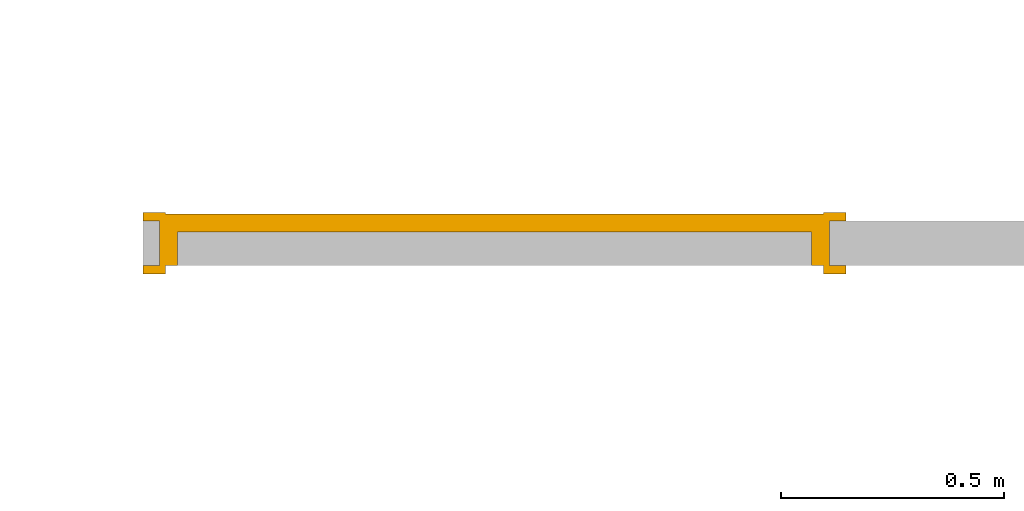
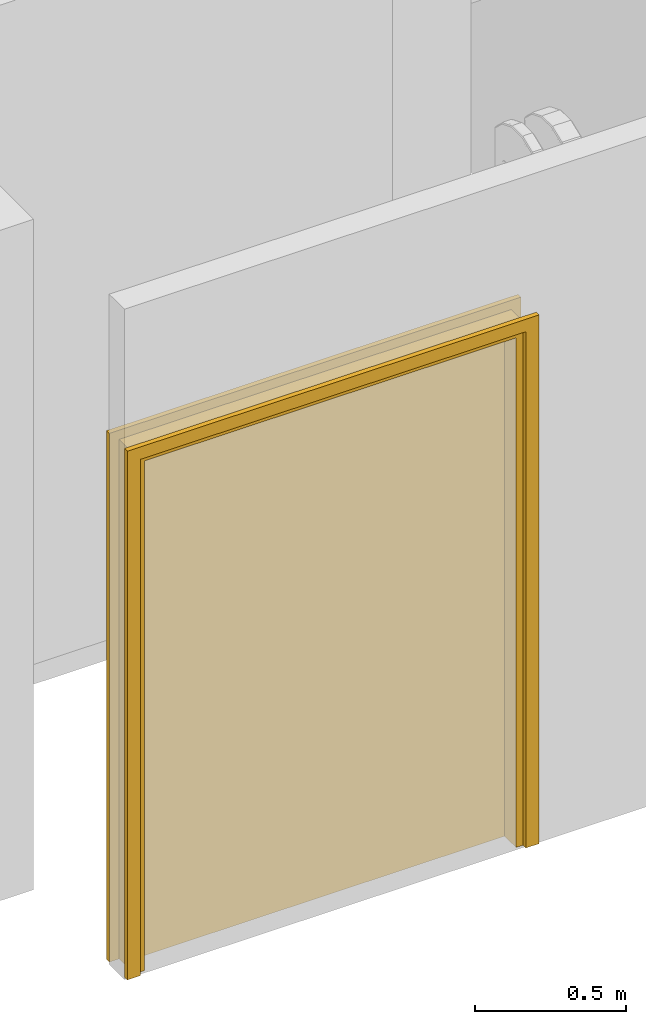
# One storey, part 5 of 22: 1 door.
"""IFC2X3 building model written with IfcOpenShell, lengths in millimetres."""

from ifc_helpers import new_model, entity, si_unit, converted_unit, derived_unit, direction, frame, origin, place, context, subcontext, project, spatial, face_set, surface_model, source, transform, mapped, material, type_object, type_shapes, element, save


model = new_model("IFC2X3")

# Units and contexts
model_context = context("Model", 3, precision=0.01, world=origin(), true_north=direction((6.12303176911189e-17, 1.0)))
body_context = subcontext(model_context, "Body", "Model", "MODEL_VIEW")
ifc_project = project(units=[si_unit("LENGTHUNIT", "METRE", prefix="MILLI"), si_unit("AREAUNIT", "SQUARE_METRE"), si_unit("VOLUMEUNIT", "CUBIC_METRE"), converted_unit("PLANEANGLEUNIT", "DEGREE", entity("IfcRatioMeasure", 0.0174532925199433), si_unit("PLANEANGLEUNIT", "RADIAN"), dimensions=[0, 0, 0, 0, 0, 0, 0]), si_unit("MASSUNIT", "GRAM", prefix="KILO"), derived_unit("MASSDENSITYUNIT", [(si_unit("MASSUNIT", "GRAM", prefix="KILO"), 1), (si_unit("LENGTHUNIT", "METRE"), -3)]), si_unit("TIMEUNIT", "SECOND"), si_unit("FREQUENCYUNIT", "HERTZ"), si_unit("THERMODYNAMICTEMPERATUREUNIT", "DEGREE_CELSIUS"), derived_unit("THERMALTRANSMITTANCEUNIT", [(si_unit("MASSUNIT", "GRAM", prefix="KILO"), 1), (si_unit("THERMODYNAMICTEMPERATUREUNIT", "KELVIN"), -1), (si_unit("TIMEUNIT", "SECOND"), -3)]), derived_unit("VOLUMETRICFLOWRATEUNIT", [(si_unit("LENGTHUNIT", "METRE"), 3), (si_unit("TIMEUNIT", "SECOND"), -1)]), si_unit("ELECTRICCURRENTUNIT", "AMPERE"), si_unit("ELECTRICVOLTAGEUNIT", "VOLT"), si_unit("POWERUNIT", "WATT"), si_unit("FORCEUNIT", "NEWTON", prefix="KILO"), si_unit("ILLUMINANCEUNIT", "LUX"), si_unit("LUMINOUSFLUXUNIT", "LUMEN"), si_unit("LUMINOUSINTENSITYUNIT", "CANDELA"), derived_unit("USERDEFINED", [(si_unit("MASSUNIT", "GRAM", prefix="KILO"), -1), (si_unit("LENGTHUNIT", "METRE"), -2), (si_unit("TIMEUNIT", "SECOND"), 3), (si_unit("LUMINOUSFLUXUNIT", "LUMEN"), 1)]), derived_unit("LINEARVELOCITYUNIT", [(si_unit("LENGTHUNIT", "METRE"), 1), (si_unit("TIMEUNIT", "SECOND"), -1)]), si_unit("PRESSUREUNIT", "PASCAL"), derived_unit("USERDEFINED", [(si_unit("LENGTHUNIT", "METRE"), -2), (si_unit("MASSUNIT", "GRAM", prefix="KILO"), 1), (si_unit("TIMEUNIT", "SECOND"), -2)])], contexts=[model_context])

# Site, building, storey
site_placement = place(None, origin())
site = spatial("IfcSite", under=ifc_project, at=site_placement, Name="Default", CompositionType="ELEMENT")
building_placement = place(site_placement, origin())
building = spatial("IfcBuilding", under=site, at=building_placement, CompositionType="ELEMENT")
storey_placement = place(building_placement, frame((0.0, 0.0, -3000.0)))
storey = spatial("IfcBuildingStorey", under=building, at=storey_placement, Name="-2. Story", CompositionType="ELEMENT", Elevation=-3000.0)

# Door
ifc_material = material(Name="Metal - Stainless Steel")
door_style = type_object("IfcDoorStyle", Name="DOO - 003", ConstructionType="NOTDEFINED", OperationType="NOTDEFINED", ParameterTakesPrecedence=False, Sizeable=False, material=ifc_material)
shared_shape = source(origin(), body_context, "Body", "SurfaceModel", [
    surface_model("IfcFaceBasedSurfaceModel", [(47009.45748506, 74622.1569014, -2900.0), (47059.45748506, 74622.1569014, -2900.0), (47059.45748506, 74603.1569014, -2900.0), (47009.45748506, 74603.1569014, -2900.0), (47009.45748506, 74622.1569014, -2900.0), (47009.45748506, 74622.1569014, -763.0), (47059.45748506, 74622.1569014, -813.0), (47059.45748506, 74622.1569014, -2900.0), (47059.45748506, 74622.1569014, -2900.0), (47059.45748506, 74622.1569014, -813.0), (47059.45748506, 74603.1569014, -813.0), (47059.45748506, 74603.1569014, -2900.0), (47009.45748506, 74603.1569014, -2900.0), (47059.45748506, 74603.1569014, -2900.0), (47059.45748506, 74603.1569014, -813.0), (47009.45748506, 74603.1569014, -763.0), (47009.45748506, 74622.1569014, -763.0), (47009.45748506, 74622.1569014, -2900.0), (47009.45748506, 74603.1569014, -2900.0), (47009.45748506, 74603.1569014, -763.0), (47059.45748506, 74622.1569014, -813.0), (47009.45748506, 74622.1569014, -763.0), (47009.45748506, 74603.1569014, -763.0), (47059.45748506, 74603.1569014, -813.0), (48583.45748506, 74622.1569014, -763.0), (48533.45748506, 74622.1569014, -813.0), (48533.45748506, 74603.1569014, -813.0), (48583.45748506, 74603.1569014, -763.0), (48583.45748506, 74622.1569014, -763.0), (48583.45748506, 74622.1569014, -2900.0), (48533.45748506, 74622.1569014, -2900.0), (48533.45748506, 74622.1569014, -813.0), (48533.45748506, 74622.1569014, -813.0), (48533.45748506, 74622.1569014, -2900.0), (48533.45748506, 74603.1569014, -2900.0), (48533.45748506, 74603.1569014, -813.0), (48583.45748506, 74603.1569014, -763.0), (48533.45748506, 74603.1569014, -813.0), (48533.45748506, 74603.1569014, -2900.0), (48583.45748506, 74603.1569014, -2900.0), (48583.45748506, 74622.1569014, -2900.0), (48583.45748506, 74622.1569014, -763.0), (48583.45748506, 74603.1569014, -763.0), (48583.45748506, 74603.1569014, -2900.0), (48533.45748506, 74622.1569014, -2900.0), (48583.45748506, 74622.1569014, -2900.0), (48583.45748506, 74603.1569014, -2900.0), (48533.45748506, 74603.1569014, -2900.0), (47009.45748506, 74622.1569014, -763.0), (47059.45748506, 74622.1569014, -813.0), (47059.45748506, 74603.1569014, -813.0), (47009.45748506, 74603.1569014, -763.0), (47009.45748506, 74622.1569014, -763.0), (48583.45748506, 74622.1569014, -763.0), (48533.45748506, 74622.1569014, -813.0), (47059.45748506, 74622.1569014, -813.0), (47059.45748506, 74622.1569014, -813.0), (48533.45748506, 74622.1569014, -813.0), (48533.45748506, 74603.1569014, -813.0), (47059.45748506, 74603.1569014, -813.0), (47009.45748506, 74603.1569014, -763.0), (47059.45748506, 74603.1569014, -813.0), (48533.45748506, 74603.1569014, -813.0), (48583.45748506, 74603.1569014, -763.0), (48583.45748506, 74622.1569014, -763.0), (47009.45748506, 74622.1569014, -763.0), (47009.45748506, 74603.1569014, -763.0), (48583.45748506, 74603.1569014, -763.0), (48533.45748506, 74622.1569014, -813.0), (48583.45748506, 74622.1569014, -763.0), (48583.45748506, 74603.1569014, -763.0), (48533.45748506, 74603.1569014, -813.0), (47009.45748506, 74484.1569014, -2900.0), (47009.45748506, 74503.1569014, -2900.0), (47059.45748506, 74503.1569014, -2900.0), (47059.45748506, 74484.1569014, -2900.0), (47009.45748506, 74484.1569014, -763.0), (47009.45748506, 74503.1569014, -763.0), (47009.45748506, 74503.1569014, -2900.0), (47009.45748506, 74484.1569014, -2900.0), (47009.45748506, 74503.1569014, -2900.0), (47009.45748506, 74503.1569014, -763.0), (47059.45748506, 74503.1569014, -813.0), (47059.45748506, 74503.1569014, -2900.0), (47059.45748506, 74484.1569014, -2900.0), (47059.45748506, 74503.1569014, -2900.0), (47059.45748506, 74503.1569014, -813.0), (47059.45748506, 74484.1569014, -813.0), (47009.45748506, 74484.1569014, -2900.0), (47059.45748506, 74484.1569014, -2900.0), (47059.45748506, 74484.1569014, -813.0), (47009.45748506, 74484.1569014, -763.0), (47059.45748506, 74484.1569014, -813.0), (47059.45748506, 74503.1569014, -813.0), (47009.45748506, 74503.1569014, -763.0), (47009.45748506, 74484.1569014, -763.0), (48583.45748506, 74484.1569014, -763.0), (48583.45748506, 74503.1569014, -763.0), (48533.45748506, 74503.1569014, -813.0), (48533.45748506, 74484.1569014, -813.0), (48583.45748506, 74484.1569014, -2900.0), (48583.45748506, 74503.1569014, -2900.0), (48583.45748506, 74503.1569014, -763.0), (48583.45748506, 74484.1569014, -763.0), (48583.45748506, 74503.1569014, -763.0), (48583.45748506, 74503.1569014, -2900.0), (48533.45748506, 74503.1569014, -2900.0), (48533.45748506, 74503.1569014, -813.0), (48533.45748506, 74484.1569014, -813.0), (48533.45748506, 74503.1569014, -813.0), (48533.45748506, 74503.1569014, -2900.0), (48533.45748506, 74484.1569014, -2900.0), (48583.45748506, 74484.1569014, -763.0), (48533.45748506, 74484.1569014, -813.0), (48533.45748506, 74484.1569014, -2900.0), (48583.45748506, 74484.1569014, -2900.0), (48533.45748506, 74484.1569014, -2900.0), (48533.45748506, 74503.1569014, -2900.0), (48583.45748506, 74503.1569014, -2900.0), (48583.45748506, 74484.1569014, -2900.0), (47009.45748506, 74484.1569014, -763.0), (47009.45748506, 74503.1569014, -763.0), (47059.45748506, 74503.1569014, -813.0), (47059.45748506, 74484.1569014, -813.0), (48583.45748506, 74484.1569014, -763.0), (48583.45748506, 74503.1569014, -763.0), (47009.45748506, 74503.1569014, -763.0), (47009.45748506, 74484.1569014, -763.0), (47009.45748506, 74503.1569014, -763.0), (48583.45748506, 74503.1569014, -763.0), (48533.45748506, 74503.1569014, -813.0), (47059.45748506, 74503.1569014, -813.0), (47059.45748506, 74484.1569014, -813.0), (47059.45748506, 74503.1569014, -813.0), (48533.45748506, 74503.1569014, -813.0), (48533.45748506, 74484.1569014, -813.0), (47009.45748506, 74484.1569014, -763.0), (47059.45748506, 74484.1569014, -813.0), (48533.45748506, 74484.1569014, -813.0), (48583.45748506, 74484.1569014, -763.0), (48533.45748506, 74484.1569014, -813.0), (48533.45748506, 74503.1569014, -813.0), (48583.45748506, 74503.1569014, -763.0), (48583.45748506, 74484.1569014, -763.0), (47086.45748506, 74578.1569014, -2900.0), (47086.45748506, 74578.1569014, -840.0), (47086.45748506, 74503.1569014, -840.0), (47086.45748506, 74503.1569014, -2900.0), (47074.45748506, 74578.1569014, -840.0), (47086.45748506, 74578.1569014, -840.0), (47086.45748506, 74578.1569014, -2900.0), (47074.45748506, 74578.1569014, -2900.0), (47074.45748506, 74578.1569014, -840.0), (47074.45748506, 74618.1569014, -840.0), (47046.45748506, 74618.1569014, -840.0), (47046.45748506, 74503.1569014, -840.0), (47086.45748506, 74503.1569014, -840.0), (47086.45748506, 74578.1569014, -840.0), (47086.45748506, 74503.1569014, -2900.0), (47086.45748506, 74503.1569014, -840.0), (47046.45748506, 74503.1569014, -840.0), (47046.45748506, 74503.1569014, -2900.0), (47074.45748506, 74578.1569014, -2900.0), (47086.45748506, 74578.1569014, -2900.0), (47086.45748506, 74503.1569014, -2900.0), (47046.45748506, 74503.1569014, -2900.0), (47046.45748506, 74618.1569014, -2900.0), (47074.45748506, 74618.1569014, -2900.0), (47074.45748506, 74618.1569014, -840.0), (47074.45748506, 74578.1569014, -840.0), (47074.45748506, 74578.1569014, -2900.0), (47074.45748506, 74618.1569014, -2900.0), (47074.45748506, 74618.1569014, -840.0), (47074.45748506, 74618.1569014, -2900.0), (47046.45748506, 74618.1569014, -2900.0), (47046.45748506, 74618.1569014, -840.0), (47046.45748506, 74618.1569014, -2900.0), (47046.45748506, 74503.1569014, -2900.0), (47046.45748506, 74503.1569014, -840.0), (47046.45748506, 74618.1569014, -840.0), (48518.45748506, 74578.1569014, -840.0), (48506.45748506, 74578.1569014, -840.0), (48506.45748506, 74503.1569014, -840.0), (48546.45748506, 74503.1569014, -840.0), (48546.45748506, 74618.1569014, -840.0), (48518.45748506, 74618.1569014, -840.0), (48506.45748506, 74578.1569014, -840.0), (48518.45748506, 74578.1569014, -840.0), (48518.45748506, 74578.1569014, -2900.0), (48506.45748506, 74578.1569014, -2900.0), (48506.45748506, 74578.1569014, -840.0), (48506.45748506, 74578.1569014, -2900.0), (48506.45748506, 74503.1569014, -2900.0), (48506.45748506, 74503.1569014, -840.0), (48546.45748506, 74503.1569014, -840.0), (48506.45748506, 74503.1569014, -840.0), (48506.45748506, 74503.1569014, -2900.0), (48546.45748506, 74503.1569014, -2900.0), (48546.45748506, 74618.1569014, -840.0), (48546.45748506, 74503.1569014, -840.0), (48546.45748506, 74503.1569014, -2900.0), (48546.45748506, 74618.1569014, -2900.0), (48518.45748506, 74618.1569014, -2900.0), (48518.45748506, 74618.1569014, -840.0), (48546.45748506, 74618.1569014, -840.0), (48546.45748506, 74618.1569014, -2900.0), (48518.45748506, 74578.1569014, -840.0), (48518.45748506, 74618.1569014, -840.0), (48518.45748506, 74618.1569014, -2900.0), (48518.45748506, 74578.1569014, -2900.0), (48518.45748506, 74578.1569014, -2900.0), (48518.45748506, 74618.1569014, -2900.0), (48546.45748506, 74618.1569014, -2900.0), (48546.45748506, 74503.1569014, -2900.0), (48506.45748506, 74503.1569014, -2900.0), (48506.45748506, 74578.1569014, -2900.0), (47074.45748506, 74618.1569014, -828.0), (47074.45748506, 74618.1569014, -840.0), (47046.45748506, 74618.1569014, -840.0), (47046.45748506, 74618.1569014, -800.0), (48546.45748506, 74618.1569014, -800.0), (48546.45748506, 74618.1569014, -840.0), (48518.45748506, 74618.1569014, -840.0), (48518.45748506, 74618.1569014, -828.0), (47074.45748506, 74618.1569014, -840.0), (47074.45748506, 74618.1569014, -828.0), (47074.45748506, 74578.1569014, -828.0), (47074.45748506, 74578.1569014, -840.0), (47074.45748506, 74578.1569014, -840.0), (47086.45748506, 74578.1569014, -840.0), (47086.45748506, 74503.1569014, -840.0), (47046.45748506, 74503.1569014, -840.0), (47046.45748506, 74618.1569014, -840.0), (47074.45748506, 74618.1569014, -840.0), (47046.45748506, 74618.1569014, -840.0), (47046.45748506, 74503.1569014, -840.0), (47046.45748506, 74503.1569014, -800.0), (47046.45748506, 74618.1569014, -800.0), (47046.45748506, 74618.1569014, -800.0), (47046.45748506, 74503.1569014, -800.0), (48546.45748506, 74503.1569014, -800.0), (48546.45748506, 74618.1569014, -800.0), (48546.45748506, 74618.1569014, -800.0), (48546.45748506, 74503.1569014, -800.0), (48546.45748506, 74503.1569014, -840.0), (48546.45748506, 74618.1569014, -840.0), (48518.45748506, 74578.1569014, -840.0), (48518.45748506, 74618.1569014, -840.0), (48546.45748506, 74618.1569014, -840.0), (48546.45748506, 74503.1569014, -840.0), (48506.45748506, 74503.1569014, -840.0), (48506.45748506, 74578.1569014, -840.0), (48518.45748506, 74618.1569014, -828.0), (48518.45748506, 74618.1569014, -840.0), (48518.45748506, 74578.1569014, -840.0), (48518.45748506, 74578.1569014, -828.0), (47074.45748506, 74618.1569014, -828.0), (48518.45748506, 74618.1569014, -828.0), (48518.45748506, 74578.1569014, -828.0), (47074.45748506, 74578.1569014, -828.0), (48518.45748506, 74578.1569014, -840.0), (48506.45748506, 74578.1569014, -840.0), (47086.45748506, 74578.1569014, -840.0), (47074.45748506, 74578.1569014, -840.0), (47074.45748506, 74578.1569014, -828.0), (48518.45748506, 74578.1569014, -828.0), (47086.45748506, 74578.1569014, -840.0), (48506.45748506, 74578.1569014, -840.0), (48506.45748506, 74503.1569014, -840.0), (47086.45748506, 74503.1569014, -840.0), (48506.45748506, 74503.1569014, -840.0), (48546.45748506, 74503.1569014, -840.0), (48546.45748506, 74503.1569014, -800.0), (47046.45748506, 74503.1569014, -800.0), (47046.45748506, 74503.1569014, -840.0), (47086.45748506, 74503.1569014, -840.0), (48518.45748506, 74618.1569014, -2900.0), (48518.45748506, 74578.1569014, -2900.0), (47796.45748506, 74578.1569014, -2900.0), (47796.45748506, 74618.1569014, -2900.0), (48518.45748506, 74618.1569014, -828.0), (48518.45748506, 74578.1569014, -828.0), (48518.45748506, 74578.1569014, -2900.0), (48518.45748506, 74618.1569014, -2900.0), (48518.45748506, 74578.1569014, -2900.0), (48518.45748506, 74578.1569014, -828.0), (47796.45748506, 74578.1569014, -828.0), (47796.45748506, 74578.1569014, -2900.0), (47796.45748506, 74618.1569014, -2900.0), (47796.45748506, 74578.1569014, -2900.0), (47796.45748506, 74578.1569014, -828.0), (47796.45748506, 74618.1569014, -828.0), (48518.45748506, 74618.1569014, -2900.0), (47796.45748506, 74618.1569014, -2900.0), (47796.45748506, 74618.1569014, -828.0), (48518.45748506, 74618.1569014, -828.0), (47796.45748506, 74618.1569014, -828.0), (47796.45748506, 74578.1569014, -828.0), (48518.45748506, 74578.1569014, -828.0), (48518.45748506, 74618.1569014, -828.0), (47074.45748506, 74618.1569014, -2900.0), (47796.45748506, 74618.1569014, -2900.0), (47796.45748506, 74578.1569014, -2900.0), (47074.45748506, 74578.1569014, -2900.0), (47074.45748506, 74618.1569014, -2900.0), (47074.45748506, 74618.1569014, -828.0), (47796.45748506, 74618.1569014, -828.0), (47796.45748506, 74618.1569014, -2900.0), (47796.45748506, 74618.1569014, -2900.0), (47796.45748506, 74618.1569014, -828.0), (47796.45748506, 74578.1569014, -828.0), (47796.45748506, 74578.1569014, -2900.0), (47074.45748506, 74578.1569014, -2900.0), (47796.45748506, 74578.1569014, -2900.0), (47796.45748506, 74578.1569014, -828.0), (47074.45748506, 74578.1569014, -828.0), (47074.45748506, 74618.1569014, -828.0), (47074.45748506, 74618.1569014, -2900.0), (47074.45748506, 74578.1569014, -2900.0), (47074.45748506, 74578.1569014, -828.0), (47796.45748506, 74618.1569014, -828.0), (47074.45748506, 74618.1569014, -828.0), (47074.45748506, 74578.1569014, -828.0), (47796.45748506, 74578.1569014, -828.0)], [face_set([[[0, 1, 2, 3]]]), face_set([[[4, 5, 6, 7]]]), face_set([[[8, 9, 10, 11]]]), face_set([[[12, 13, 14, 15]]]), face_set([[[16, 17, 18, 19]]]), face_set([[[20, 21, 22, 23]]]), face_set([[[24, 25, 26, 27]]]), face_set([[[28, 29, 30, 31]]]), face_set([[[32, 33, 34, 35]]]), face_set([[[36, 37, 38, 39]]]), face_set([[[40, 41, 42, 43]]]), face_set([[[44, 45, 46, 47]]]), face_set([[[48, 49, 50, 51]]]), face_set([[[52, 53, 54, 55]]]), face_set([[[56, 57, 58, 59]]]), face_set([[[60, 61, 62, 63]]]), face_set([[[64, 65, 66, 67]]]), face_set([[[68, 69, 70, 71]]]), face_set([[[72, 73, 74, 75]]]), face_set([[[76, 77, 78, 79]]]), face_set([[[80, 81, 82, 83]]]), face_set([[[84, 85, 86, 87]]]), face_set([[[88, 89, 90, 91]]]), face_set([[[92, 93, 94, 95]]]), face_set([[[96, 97, 98, 99]]]), face_set([[[100, 101, 102, 103]]]), face_set([[[104, 105, 106, 107]]]), face_set([[[108, 109, 110, 111]]]), face_set([[[112, 113, 114, 115]]]), face_set([[[116, 117, 118, 119]]]), face_set([[[120, 121, 122, 123]]]), face_set([[[124, 125, 126, 127]]]), face_set([[[128, 129, 130, 131]]]), face_set([[[132, 133, 134, 135]]]), face_set([[[136, 137, 138, 139]]]), face_set([[[140, 141, 142, 143]]]), face_set([[[144, 145, 146, 147]]]), face_set([[[148, 149, 150, 151]]]), face_set([[[152, 153, 154, 155, 156, 157]]]), face_set([[[158, 159, 160, 161]]]), face_set([[[162, 163, 164, 165, 166, 167]]]), face_set([[[168, 169, 170, 171]]]), face_set([[[172, 173, 174, 175]]]), face_set([[[176, 177, 178, 179]]]), face_set([[[180, 181, 182, 183, 184, 185]]]), face_set([[[186, 187, 188, 189]]]), face_set([[[190, 191, 192, 193]]]), face_set([[[194, 195, 196, 197]]]), face_set([[[198, 199, 200, 201]]]), face_set([[[202, 203, 204, 205]]]), face_set([[[206, 207, 208, 209]]]), face_set([[[210, 211, 212, 213, 214, 215]]]), face_set([[[216, 217, 218, 219, 220, 221, 222, 223]]]), face_set([[[224, 225, 226, 227]]]), face_set([[[228, 229, 230, 231, 232, 233]]]), face_set([[[234, 235, 236, 237]]]), face_set([[[238, 239, 240, 241]]]), face_set([[[242, 243, 244, 245]]]), face_set([[[246, 247, 248, 249, 250, 251]]]), face_set([[[252, 253, 254, 255]]]), face_set([[[256, 257, 258, 259]]]), face_set([[[260, 261, 262, 263, 264, 265]]]), face_set([[[266, 267, 268, 269]]]), face_set([[[270, 271, 272, 273, 274, 275]]]), face_set([[[276, 277, 278, 279]]]), face_set([[[280, 281, 282, 283]]]), face_set([[[284, 285, 286, 287]]]), face_set([[[288, 289, 290, 291]]]), face_set([[[292, 293, 294, 295]]]), face_set([[[296, 297, 298, 299]]]), face_set([[[300, 301, 302, 303]]]), face_set([[[304, 305, 306, 307]]]), face_set([[[308, 309, 310, 311]]]), face_set([[[312, 313, 314, 315]]]), face_set([[[316, 317, 318, 319]]]), face_set([[[320, 321, 322, 323]]])]),
])
type_shapes(door_style, [shared_shape])
door_placement = place(storey_placement, frame((0.0, 0.0, 3000.0)))
element("IfcDoor", 1, at=door_placement, inside=storey, type_object=door_style, material=ifc_material, Name="DOO - 003 1463877:DOO - 003 1463877", ObjectType="DOO - 003 1463877:DOO - 003 1463877", OverallHeight=2137.0, OverallWidth=1574.0, context=body_context, shape_type="MappedRepresentation", body=[
    mapped(shared_shape, transform((0.0, 0.0, 0.0), scale=1.0)),
])

save(model, "model.ifc")
